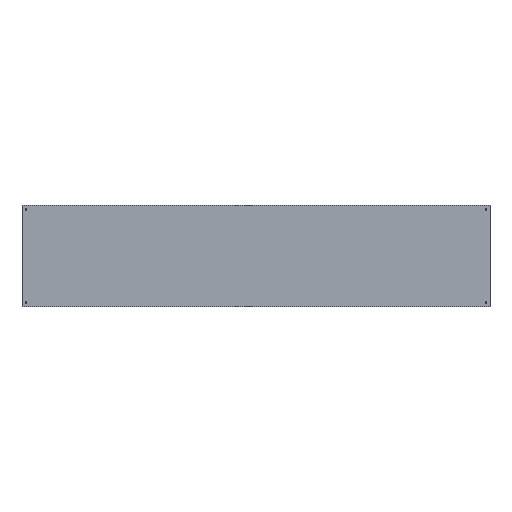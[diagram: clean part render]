
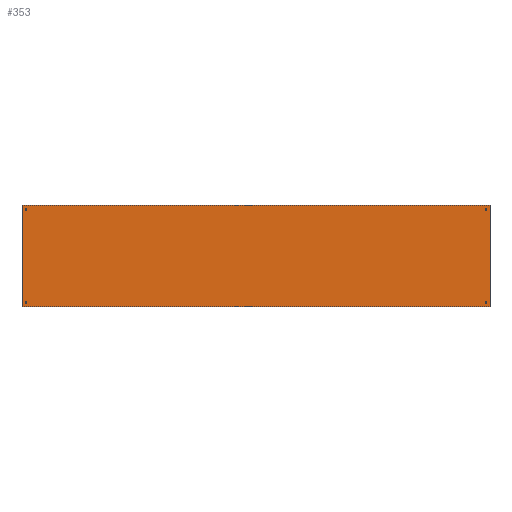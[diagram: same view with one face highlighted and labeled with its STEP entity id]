
A CAD part, top view. The second image highlights one B-rep face of the part: STEP entity #353.
In plain terms, the highlighted planar face has unit normal (0, 0, 1).
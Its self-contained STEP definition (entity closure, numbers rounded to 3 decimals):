
#30=FACE_BOUND('',#82,.T.);
#31=FACE_BOUND('',#83,.T.);
#32=FACE_BOUND('',#84,.T.);
#33=FACE_BOUND('',#85,.T.);
#42=CIRCLE('',#383,5.);
#43=CIRCLE('',#384,5.);
#44=CIRCLE('',#385,5.);
#45=CIRCLE('',#386,5.);
#46=CIRCLE('',#387,5.);
#47=CIRCLE('',#388,5.);
#48=CIRCLE('',#389,5.);
#49=CIRCLE('',#390,5.);
#59=FACE_OUTER_BOUND('',#81,.T.);
#81=EDGE_LOOP('',(#290,#291,#292,#293));
#82=EDGE_LOOP('',(#294,#295));
#83=EDGE_LOOP('',(#296,#297));
#84=EDGE_LOOP('',(#298,#299));
#85=EDGE_LOOP('',(#300,#301));
#101=LINE('',#524,#133);
#103=LINE('',#530,#135);
#110=LINE('',#543,#142);
#117=LINE('',#572,#149);
#133=VECTOR('',#413,304.8);
#135=VECTOR('',#417,304.8);
#142=VECTOR('',#426,304.8);
#149=VECTOR('',#461,304.8);
#158=VERTEX_POINT('',#509);
#165=VERTEX_POINT('',#522);
#167=VERTEX_POINT('',#527);
#168=VERTEX_POINT('',#529);
#182=VERTEX_POINT('',#574);
#183=VERTEX_POINT('',#575);
#184=VERTEX_POINT('',#578);
#185=VERTEX_POINT('',#579);
#186=VERTEX_POINT('',#582);
#187=VERTEX_POINT('',#583);
#188=VERTEX_POINT('',#586);
#189=VERTEX_POINT('',#587);
#197=EDGE_CURVE('',#165,#158,#101,.T.);
#199=EDGE_CURVE('',#167,#168,#103,.T.);
#206=EDGE_CURVE('',#158,#167,#110,.T.);
#221=EDGE_CURVE('',#168,#165,#117,.T.);
#222=EDGE_CURVE('',#182,#183,#42,.T.);
#223=EDGE_CURVE('',#183,#182,#43,.T.);
#224=EDGE_CURVE('',#184,#185,#44,.T.);
#225=EDGE_CURVE('',#185,#184,#45,.T.);
#226=EDGE_CURVE('',#186,#187,#46,.T.);
#227=EDGE_CURVE('',#187,#186,#47,.T.);
#228=EDGE_CURVE('',#188,#189,#48,.T.);
#229=EDGE_CURVE('',#189,#188,#49,.T.);
#290=ORIENTED_EDGE('',*,*,#197,.F.);
#291=ORIENTED_EDGE('',*,*,#221,.F.);
#292=ORIENTED_EDGE('',*,*,#199,.F.);
#293=ORIENTED_EDGE('',*,*,#206,.F.);
#294=ORIENTED_EDGE('',*,*,#222,.T.);
#295=ORIENTED_EDGE('',*,*,#223,.T.);
#296=ORIENTED_EDGE('',*,*,#224,.T.);
#297=ORIENTED_EDGE('',*,*,#225,.T.);
#298=ORIENTED_EDGE('',*,*,#226,.T.);
#299=ORIENTED_EDGE('',*,*,#227,.T.);
#300=ORIENTED_EDGE('',*,*,#228,.T.);
#301=ORIENTED_EDGE('',*,*,#229,.T.);
#343=PLANE('',#382);
#353=ADVANCED_FACE('',(#59,#30,#31,#32,#33),#343,.T.);
#382=AXIS2_PLACEMENT_3D('',#573,#462,#463);
#383=AXIS2_PLACEMENT_3D('',#576,#464,#465);
#384=AXIS2_PLACEMENT_3D('',#577,#466,#467);
#385=AXIS2_PLACEMENT_3D('',#580,#468,#469);
#386=AXIS2_PLACEMENT_3D('',#581,#470,#471);
#387=AXIS2_PLACEMENT_3D('',#584,#472,#473);
#388=AXIS2_PLACEMENT_3D('',#585,#474,#475);
#389=AXIS2_PLACEMENT_3D('',#588,#476,#477);
#390=AXIS2_PLACEMENT_3D('',#589,#478,#479);
#413=DIRECTION('',(0.,-1.,0.));
#417=DIRECTION('',(0.,1.,0.));
#426=DIRECTION('',(-1.,0.,0.));
#461=DIRECTION('',(1.,0.,0.));
#462=DIRECTION('center_axis',(0.,0.,1.));
#463=DIRECTION('ref_axis',(-1.,0.,0.));
#464=DIRECTION('center_axis',(0.,0.,-1.));
#465=DIRECTION('ref_axis',(1.,0.,0.));
#466=DIRECTION('center_axis',(0.,0.,-1.));
#467=DIRECTION('ref_axis',(1.,0.,0.));
#468=DIRECTION('center_axis',(0.,0.,-1.));
#469=DIRECTION('ref_axis',(1.,0.,0.));
#470=DIRECTION('center_axis',(0.,0.,-1.));
#471=DIRECTION('ref_axis',(1.,0.,0.));
#472=DIRECTION('center_axis',(0.,0.,-1.));
#473=DIRECTION('ref_axis',(1.,0.,0.));
#474=DIRECTION('center_axis',(0.,0.,-1.));
#475=DIRECTION('ref_axis',(1.,0.,0.));
#476=DIRECTION('center_axis',(0.,0.,-1.));
#477=DIRECTION('ref_axis',(1.,0.,0.));
#478=DIRECTION('center_axis',(0.,0.,-1.));
#479=DIRECTION('ref_axis',(1.,0.,0.));
#509=CARTESIAN_POINT('',(3000.,-325.,1.5));
#522=CARTESIAN_POINT('',(3000.,325.,1.5));
#524=CARTESIAN_POINT('',(3000.,325.,1.5));
#527=CARTESIAN_POINT('',(0.,-325.,1.5));
#529=CARTESIAN_POINT('',(0.,325.,1.5));
#530=CARTESIAN_POINT('',(0.,-325.,1.5));
#543=CARTESIAN_POINT('',(3000.,-325.,1.5));
#572=CARTESIAN_POINT('',(3000.,325.,1.5));
#573=CARTESIAN_POINT('Origin',(3000.,325.,1.5));
#574=CARTESIAN_POINT('',(30.,298.5,1.5));
#575=CARTESIAN_POINT('',(20.,298.5,1.5));
#576=CARTESIAN_POINT('Origin',(25.,298.5,1.5));
#577=CARTESIAN_POINT('Origin',(25.,298.5,1.5));
#578=CARTESIAN_POINT('',(30.,-298.5,1.5));
#579=CARTESIAN_POINT('',(20.,-298.5,1.5));
#580=CARTESIAN_POINT('Origin',(25.,-298.5,1.5));
#581=CARTESIAN_POINT('Origin',(25.,-298.5,1.5));
#582=CARTESIAN_POINT('',(2980.,298.5,1.5));
#583=CARTESIAN_POINT('',(2970.,298.5,1.5));
#584=CARTESIAN_POINT('Origin',(2975.,298.5,1.5));
#585=CARTESIAN_POINT('Origin',(2975.,298.5,1.5));
#586=CARTESIAN_POINT('',(2980.,-298.5,1.5));
#587=CARTESIAN_POINT('',(2970.,-298.5,1.5));
#588=CARTESIAN_POINT('Origin',(2975.,-298.5,1.5));
#589=CARTESIAN_POINT('Origin',(2975.,-298.5,1.5));
